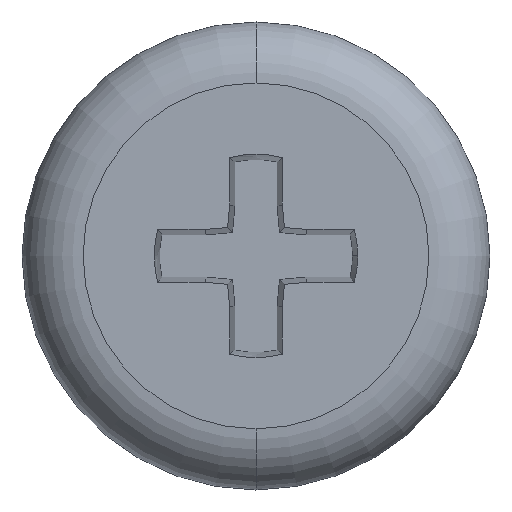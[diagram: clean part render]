
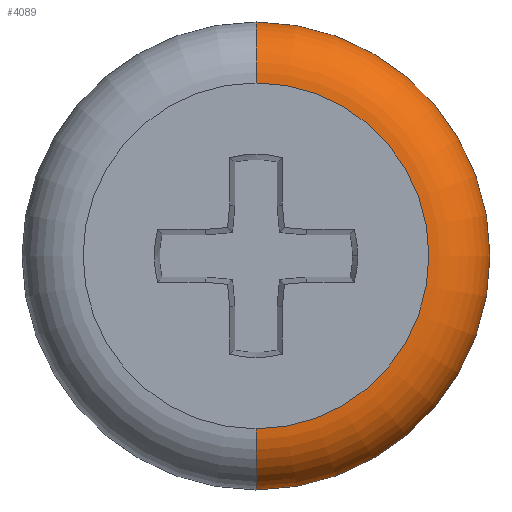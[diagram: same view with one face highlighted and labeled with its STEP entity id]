
A CAD part, top view. The second image highlights one B-rep face of the part: STEP entity #4089.
In plain terms, the highlighted toroidal (fillet/blend) face has major radius 0.85 mm and minor radius 0.3 mm.
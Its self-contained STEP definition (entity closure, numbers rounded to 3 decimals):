
#13 = CIRCLE ( 'NONE', #891, 0.3 ) ;
#84 = EDGE_CURVE ( 'NONE', #3769, #751, #1645, .T. ) ;
#190 = DIRECTION ( 'NONE',  ( 1., 0., 0. ) ) ;
#197 = VERTEX_POINT ( 'NONE', #1955 ) ;
#241 = CARTESIAN_POINT ( 'NONE',  ( 0., 0., 0.35 ) ) ;
#323 = VERTEX_POINT ( 'NONE', #3537 ) ;
#412 = AXIS2_PLACEMENT_3D ( 'NONE', #3967, #2368, #445 ) ;
#433 = CARTESIAN_POINT ( 'NONE',  ( 0., 0., 0.65 ) ) ;
#445 = DIRECTION ( 'NONE',  ( 0., 1., 0. ) ) ;
#569 = DIRECTION ( 'NONE',  ( 0., 1., 0. ) ) ;
#751 = VERTEX_POINT ( 'NONE', #2523 ) ;
#776 = DIRECTION ( 'NONE',  ( 0., 1., 0. ) ) ;
#777 = CARTESIAN_POINT ( 'NONE',  ( 0., 0., 0.35 ) ) ;
#808 = TOROIDAL_SURFACE ( 'NONE', #412, 0.85, 0.3 ) ;
#891 = AXIS2_PLACEMENT_3D ( 'NONE', #2117, #190, #2426 ) ;
#1108 = DIRECTION ( 'NONE',  ( 0., 1., 0. ) ) ;
#1122 = EDGE_CURVE ( 'NONE', #323, #3218, #3792, .T. ) ;
#1359 = CIRCLE ( 'NONE', #3744, 0.3 ) ;
#1381 = AXIS2_PLACEMENT_3D ( 'NONE', #777, #3009, #1108 ) ;
#1388 = ORIENTED_EDGE ( 'NONE', *, *, #1122, .T. ) ;
#1500 = EDGE_LOOP ( 'NONE', ( #1388, #4074, #1524, #3974, #2564 ) ) ;
#1524 = ORIENTED_EDGE ( 'NONE', *, *, #2103, .F. ) ;
#1645 = CIRCLE ( 'NONE', #1381, 1.15 ) ;
#1727 = CARTESIAN_POINT ( 'NONE',  ( 0., 0.85, 0.35 ) ) ;
#1858 = EDGE_CURVE ( 'NONE', #323, #3769, #1359, .T. ) ;
#1955 = CARTESIAN_POINT ( 'NONE',  ( 0., -1.15, 0.35 ) ) ;
#2044 = DIRECTION ( 'NONE',  ( 0., 0., 1. ) ) ;
#2103 = EDGE_CURVE ( 'NONE', #751, #197, #2664, .T. ) ;
#2117 = CARTESIAN_POINT ( 'NONE',  ( 0., -0.85, 0.35 ) ) ;
#2366 = CARTESIAN_POINT ( 'NONE',  ( 0., 1.15, 0.35 ) ) ;
#2368 = DIRECTION ( 'NONE',  ( 0., 0., -1. ) ) ;
#2426 = DIRECTION ( 'NONE',  ( 0., 1., 0. ) ) ;
#2485 = DIRECTION ( 'NONE',  ( 0., 0., -1. ) ) ;
#2523 = CARTESIAN_POINT ( 'NONE',  ( 1.15, 0., 0.35 ) ) ;
#2564 = ORIENTED_EDGE ( 'NONE', *, *, #1858, .F. ) ;
#2571 = CARTESIAN_POINT ( 'NONE',  ( 0., -0.85, 0.65 ) ) ;
#2664 = CIRCLE ( 'NONE', #3458, 1.15 ) ;
#2687 = DIRECTION ( 'NONE',  ( 0., 0., -1. ) ) ;
#3009 = DIRECTION ( 'NONE',  ( 0., 0., -1. ) ) ;
#3134 = AXIS2_PLACEMENT_3D ( 'NONE', #433, #2687, #776 ) ;
#3218 = VERTEX_POINT ( 'NONE', #2571 ) ;
#3247 = FACE_OUTER_BOUND ( 'NONE', #1500, .T. ) ;
#3458 = AXIS2_PLACEMENT_3D ( 'NONE', #241, #2485, #569 ) ;
#3466 = EDGE_CURVE ( 'NONE', #3218, #197, #13, .T. ) ;
#3537 = CARTESIAN_POINT ( 'NONE',  ( 0., 0.85, 0.65 ) ) ;
#3744 = AXIS2_PLACEMENT_3D ( 'NONE', #1727, #3959, #2044 ) ;
#3769 = VERTEX_POINT ( 'NONE', #2366 ) ;
#3792 = CIRCLE ( 'NONE', #3134, 0.85 ) ;
#3959 = DIRECTION ( 'NONE',  ( -1., 0., 0. ) ) ;
#3967 = CARTESIAN_POINT ( 'NONE',  ( 0., 0., 0.35 ) ) ;
#3974 = ORIENTED_EDGE ( 'NONE', *, *, #84, .F. ) ;
#4074 = ORIENTED_EDGE ( 'NONE', *, *, #3466, .T. ) ;
#4089 = ADVANCED_FACE ( 'NONE', ( #3247 ), #808, .T. ) ;
